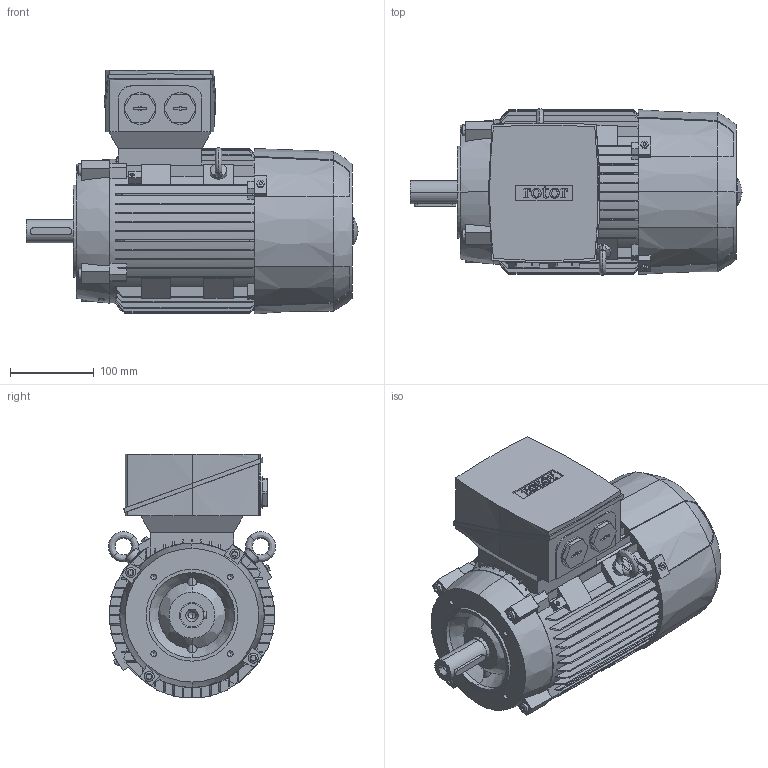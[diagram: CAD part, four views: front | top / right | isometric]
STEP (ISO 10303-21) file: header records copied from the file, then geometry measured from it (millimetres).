
FILE_DESCRIPTION (( 'STEP AP214' ), '1' );
FILE_NAME ('6RN100L08E15 IM3641.STEP', '2016-12-29T15:32:59', ( 'rbc_ict' ), ( 'Microsoft' ), 'SwSTEP 2.0', 'SolidWorks 2015', '' );
FILE_SCHEMA (( 'AUTOMOTIVE_DESIGN' ));
Length unit declared in the file: millimetre
Products named in the file (1): 6RN100L08E15 IM3641
Bounding box: 397.5 x 200.12 x 292 mm (x, y, z)
Volume: 10483421.9 mm3; surface area: 509670.9 mm2
Topology: 1 solids, 1 shells, 802 faces, 2208 edges, 1449 vertices
Faces by surface type: plane 457, bspline 156, cylinder 148, cone 41
Entity records: 37877 total; most frequent: CARTESIAN_POINT 10787, ORIENTED_EDGE 4392, DIRECTION 3436, EDGE_CURVE 2196, VERTEX_POINT 1449, VECTOR 1216, LINE 1216, AXIS2_PLACEMENT_3D 1110
